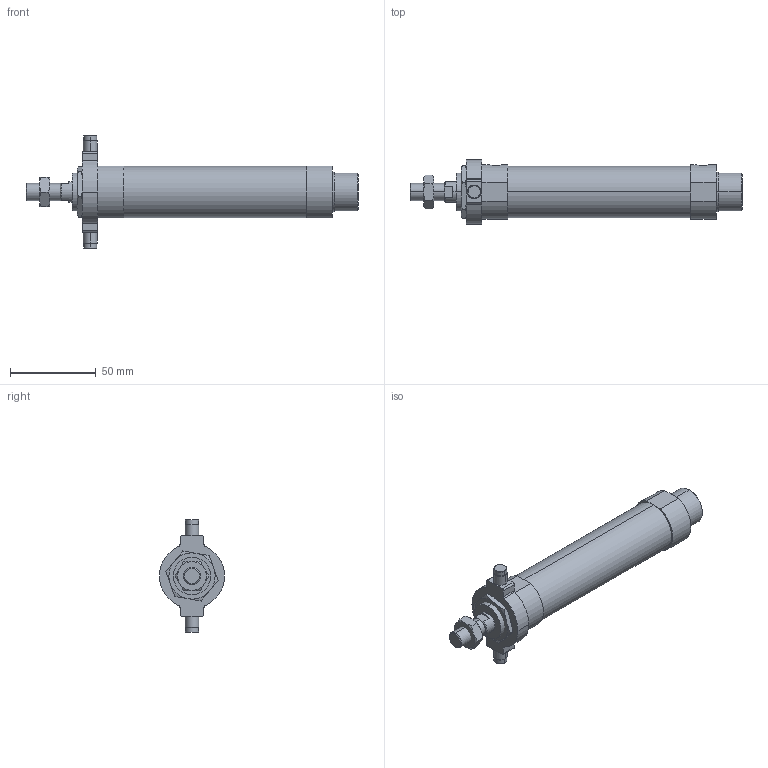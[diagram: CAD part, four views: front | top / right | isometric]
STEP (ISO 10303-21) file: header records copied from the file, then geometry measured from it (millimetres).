
FILE_DESCRIPTION (( 'STEP AP203' ), '1' );
FILE_NAME ('J#2-25-75-T.STEP', '2016-03-08T07:14:14', ( '' ), ( '' ), 'SwSTEP 2.0', 'SolidWorks 2014', '' );
FILE_SCHEMA (( 'CONFIG_CONTROL_DESIGN' ));
Length unit declared in the file: millimetre
Products named in the file (5): J#2-25-T; J#2-25-75-T; J#2-25-75
Assembly tree (4 placements, depth 2):
  J#2-25-75-T
    J#2-25-75
    (unnamed)
    J#2-25-T
    (unnamed)
Bounding box: 194 x 38 x 66 mm (x, y, z)
Volume: 121069.6 mm3; surface area: 25018.1 mm2
Topology: 4 solids, 4 shells, 136 faces, 307 edges, 184 vertices
Faces by surface type: cylinder 47, plane 47, torus 24, cone 18
Entity records: 4590 total; most frequent: CARTESIAN_POINT 1054, DIRECTION 661, ORIENTED_EDGE 606, EDGE_CURVE 303, AXIS2_PLACEMENT_3D 271, VERTEX_POINT 184, EDGE_LOOP 151, FACE_OUTER_BOUND 136
